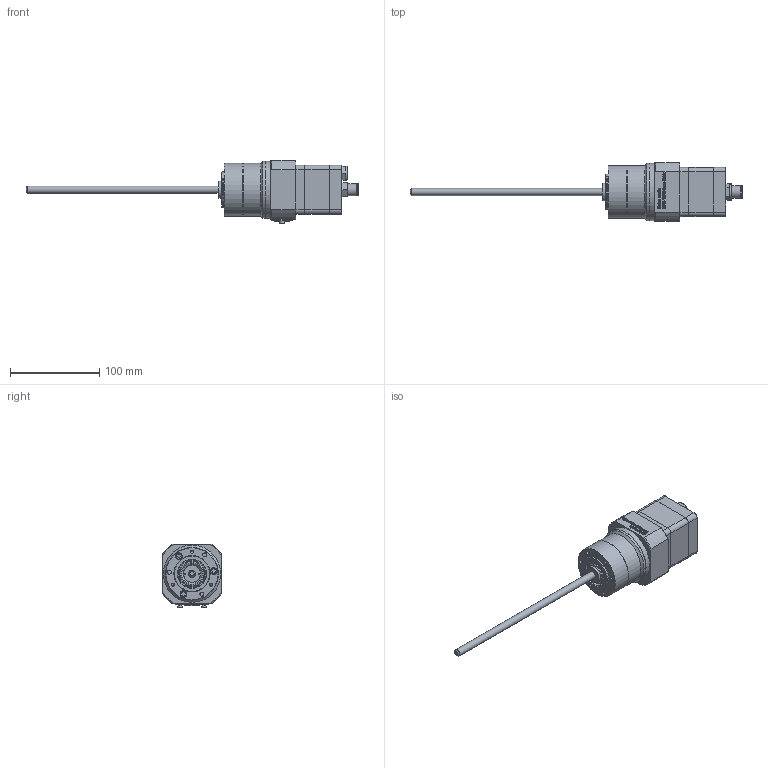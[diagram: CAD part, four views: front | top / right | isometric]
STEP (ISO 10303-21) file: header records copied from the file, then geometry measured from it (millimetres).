
FILE_DESCRIPTION(/* description */ (''),/* implementation_level */ '2;1');
FILE_NAME(/* name */ 'G:\02 CAD Dateien\02 - CAD Schrittmotoren BPS\01 - Standart Produkte\BPS 1620-23\Verkaufsunterlagen\STEP ab JULI 2017\500-1623-373 Schrittmotor BPS-1623-MX-SR2.stp',/* time_stamp */ '2017-12-20T14:34:54+01:00',/* author */ ('RSc'),/* organization */ (''),/* preprocessor_version */ 'ST-DEVELOPER v16.1',/* originating_system */ 'Autodesk Inventor 2016',/* authorisation */ '');
FILE_SCHEMA (('AUTOMOTIVE_DESIGN { 1 0 10303 214 3 1 1 }'));
Length unit declared in the file: millimetre
Products named in the file (3): Bauteil49; 500-16-295 Spindel 8x2; Baugruppe15
Assembly tree (2 placements, depth 2):
  Baugruppe15
    Bauteil49
    500-16-295 Spindel 8x2
Bounding box: 372.2 x 66 x 71 mm (x, y, z)
Volume: 430724.3 mm3; surface area: 59891.8 mm2
Topology: 3 solids, 23 shells, 815 faces, 2020 edges, 1329 vertices
Faces by surface type: plane 429, bspline 217, cylinder 123, cone 34, torus 12
Full cylindrical faces by diameter (mm): 0.9 x2, 3 x5, 3.242 x3, 3.3 x6, 4 x3, 4.5 x6, 5.5 x4, 6.65 x1, 7 x3, 7.5 x3, 8 x10, 8.566 x4, 9 x1, 10.5 x1, 11 x1, 12.6 x1, 13.6 x2, 16 x2, 19.5 x1, 20 x1, 25.4 x1, 32 x1, 40 x1, 59 x2, 64 x2
Entity records: 25676 total; most frequent: CARTESIAN_POINT 7204, ORIENTED_EDGE 3816, DIRECTION 2912, EDGE_CURVE 1901, VERTEX_POINT 1307, LINE 1132, VECTOR 1132, EDGE_LOOP 1012
